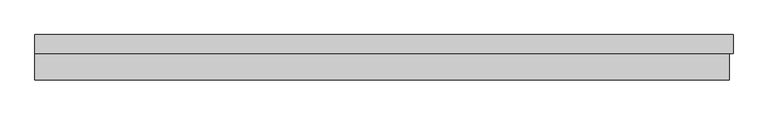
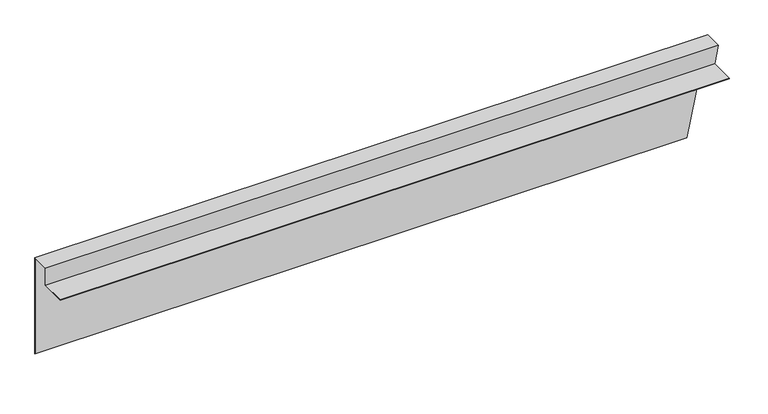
"""IFC4 building model written with IfcOpenShell, lengths in millimetres: proxy geometry, Боковой откос : Тип."""

from ifc_helpers import new_model, si_unit, origin, place, context, project, spatial, faceted_brep, source, transform, mapped, element, save


def generic_models_87b4bbea(model_context):
    return source(origin(), model_context, "Body", "Brep", [
        faceted_brep([(0.0, 1.0, -19.2), (0.0, 1.0, 30.0), (0.0, 51.0, 30.0), (0.0, 51.0, -247.0), (0.0, 50.2, -247.0), (0.0, 50.2, 29.2), (0.0, 1.8, 29.2), (0.0, 1.8, -20.0), (0.0, -69.0, -20.0), (0.0, -69.0, -19.2), (1828.6986667, 1.0, -19.2), (1838.8666667, 1.0, 30.0), (1838.8666667, 51.0, 30.0), (1781.62, 51.0, -247.0), (1781.62, 50.2, -247.0), (1838.7013333, 50.2, 29.2), (1838.7013333, 1.8, 29.2), (1828.5333333, 1.8, -20.0), (1828.5333333, -69.0, -20.0), (1828.6986667, -69.0, -19.2)], [[[0, 1, 2, 3, 4, 5, 6, 7, 8, 9]], [[0, 10, 11, 1]], [[1, 11, 12, 2]], [[2, 12, 13, 3]], [[3, 13, 14, 4]], [[4, 14, 15, 5]], [[5, 15, 16, 6]], [[6, 16, 17, 7]], [[7, 17, 18, 8]], [[8, 18, 19, 9]], [[9, 19, 10, 0]], [[10, 19, 18, 17, 16, 15, 14, 13, 12, 11]]]),
    ])


if __name__ == "__main__":
    model = new_model("IFC4")
    model_context = context("Model", 3, world=origin())
    ifc_project = project(units=[si_unit("LENGTHUNIT", "METRE", prefix="MILLI")], contexts=[model_context])
    site = spatial("IfcSite", under=ifc_project)
    building = spatial("IfcBuilding", under=site)
    placement = place(None, origin())
    generic_models_shape = generic_models_87b4bbea(model_context)
    element("IfcBuildingElementProxy", 1, Name="Боковой откос : Тип", ObjectType="Боковой откос : Тип", at=placement, inside=building, context=model_context, shape_type="MappedRepresentation", body=[
        mapped(generic_models_shape, transform((0.0, 0.0, 0.0), x_axis=(1.0, 0.0, 0.0), y_axis=(0.0, 1.0, 0.0), z_axis=(0.0, 0.0, 1.0))),
    ])
    save(model, "model.ifc")
